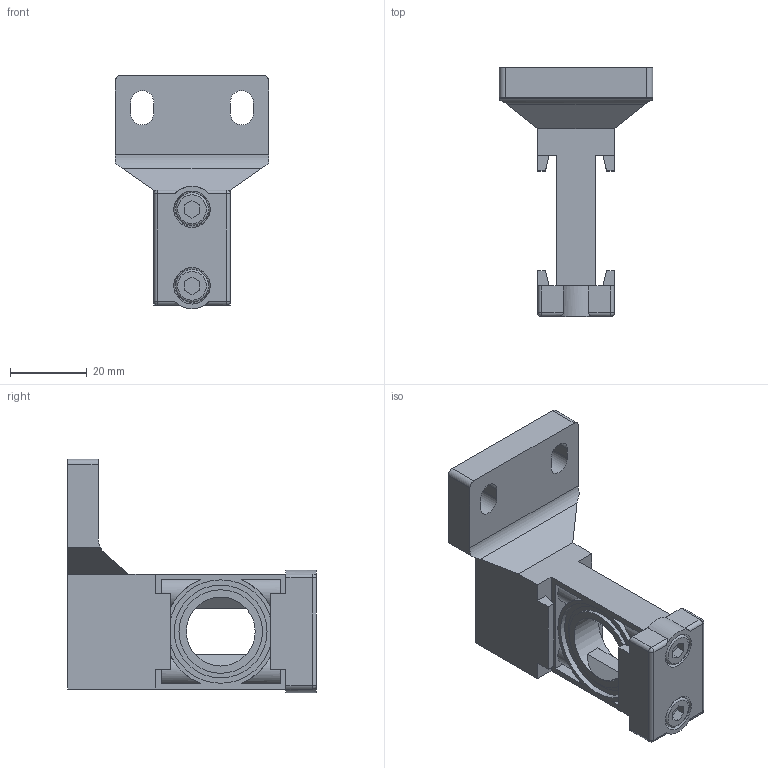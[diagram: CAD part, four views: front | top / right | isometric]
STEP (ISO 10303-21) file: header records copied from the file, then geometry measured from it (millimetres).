
FILE_DESCRIPTION( ( 'Unknown' ), '1' );
FILE_NAME( 'Y:/0-PLM共用區/支架組/BL-MACP403/2202403000100022.stp', 'Unknown', ( 'Unknown' ), ( 'Unknown' ), 'PSStep 15.0.49', 'Unknown', ' ' );
FILE_SCHEMA( ( 'AUTOMOTIVE_DESIGN { 1 0 10303 214 1 1 1 1 }' ) );
Length unit declared in the file: millimetre
Products named in the file (3): 1; 2; B00413-MACP403
Bounding box: 40 x 65 x 61 mm (x, y, z)
Volume: 26940.8 mm3; surface area: 17634.7 mm2
Topology: 3 solids, 6 shells, 205 faces, 497 edges, 319 vertices
Faces by surface type: plane 140, cylinder 48, cone 7, torus 6, sphere 4
Full cylindrical faces by diameter (mm): 4.2 x2, 5 x2, 5.5 x2, 8.5 x2, 21.8 x2, 27 x2
Entity records: 7822 total; most frequent: CARTESIAN_POINT 1430, DIRECTION 967, ORIENTED_EDGE 920, EDGE_CURVE 460, LINE 331, VECTOR 331, AXIS2_PLACEMENT_3D 318, VERTEX_POINT 312
